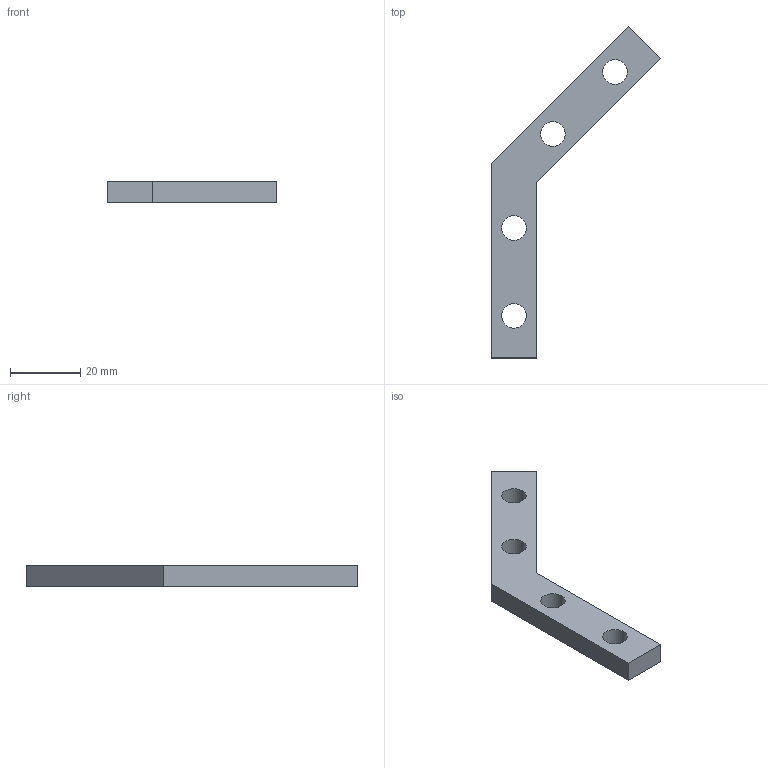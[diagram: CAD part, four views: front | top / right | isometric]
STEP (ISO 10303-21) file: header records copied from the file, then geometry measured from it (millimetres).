
FILE_DESCRIPTION (( 'STEP AP214' ), '1' );
FILE_NAME ('SF01021.step', '2024-12-03T16:29:31', ( '' ), ( '' ), 'SwSTEP 2.0', 'SolidWorks 2023', '' );
FILE_SCHEMA (( 'AUTOMOTIVE_DESIGN' ));
Length unit declared in the file: millimetre
Products named in the file (1): SF01021
Bounding box: 48.36 x 94.55 x 6 mm (x, y, z)
Volume: 7296.4 mm3; surface area: 4380.5 mm2
Topology: 1 solids, 1 shells, 16 faces, 42 edges, 28 vertices
Faces by surface type: cylinder 8, plane 8
Entity records: 541 total; most frequent: DIRECTION 92, CARTESIAN_POINT 87, ORIENTED_EDGE 84, EDGE_CURVE 42, AXIS2_PLACEMENT_3D 33, VERTEX_POINT 28, VECTOR 26, LINE 26
